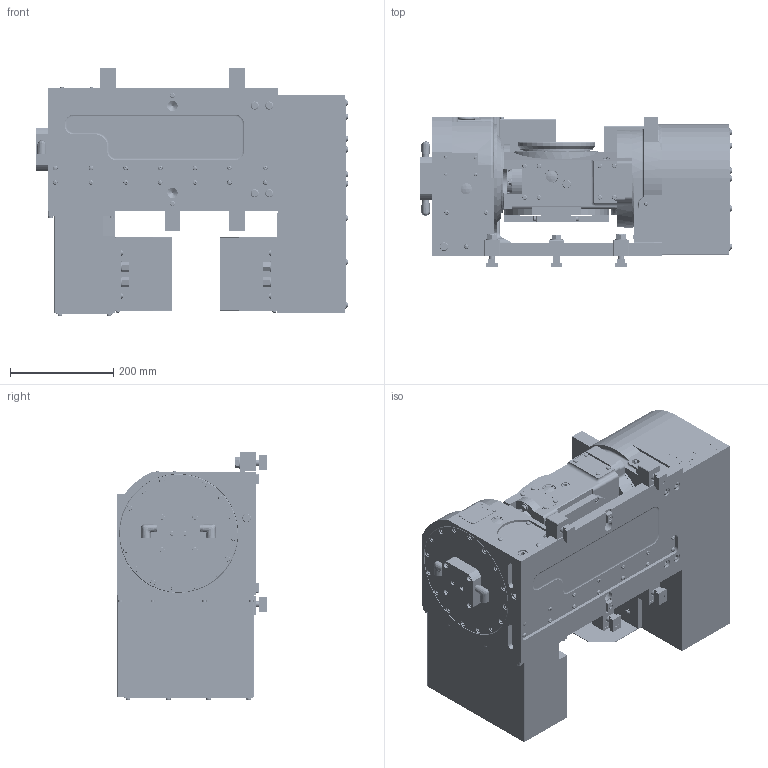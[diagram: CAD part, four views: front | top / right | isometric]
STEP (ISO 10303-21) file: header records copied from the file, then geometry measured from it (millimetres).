
FILE_DESCRIPTION (( 'STEP AP214' ), '1' );
FILE_NAME ('【掲載用】TT150付加軸RJ付.STEP', '2019-10-10T07:00:21', ( '' ), ( '' ), 'SwSTEP 2.0', 'SolidWorks 2017', '' );
FILE_SCHEMA (( 'AUTOMOTIVE_DESIGN' ));
Length unit declared in the file: millimetre
Products named in the file (19): Tスロットナット１４１２; Wヒラ　パーカ12; B 8.8 パーカ M12×55; クランプ(61E444174)TT150AE-04; TABLE_RJ(61E819648)TT150A01; BODY_RJ(61E114919)TT150A01; BASE_TT150AFR; キタガワシール; SMC KQ2E06-02; コネクタカバー(61E828569); コネクタカバー(61E828566); コネクタプレート(61E478412）; コネクタプレート(61E478411）; モータケース(61E2743650)TT150AFR61; モータケース(61E273001)TT150AF-01; BASE_RJ(61E114920)TT150A01_GB14; 【掲載用】TT150付加軸RJ付; CLAMPING PARTS(61E444176)TT181D3
Assembly tree (24 placements, depth 3):
  【掲載用】TT150付加軸RJ付
    BASE_TT150AFR
      BASE_RJ(61E114920)TT150A01_GB14
      モータケース(61E273001)TT150AF-01
      モータケース(61E2743650)TT150AFR61
      コネクタプレート(61E478411）
      コネクタプレート(61E478412）
      コネクタカバー(61E828566)
      コネクタカバー(61E828569)
      SMC KQ2E06-02  x4
      キタガワシール
    BODY_RJ(61E114919)TT150A01
      BODY_RJ(61E114919)TT150A01
    TABLE_RJ(61E819648)TT150A01
    CLAMPING PARTS(61E444176)TT181D3  x4
      クランプ(61E444174)TT150AE-04
      B 8.8 パーカ M12×55
      Wヒラ　パーカ12
      Tスロットナット１４１２
Bounding box: 605.8 x 292 x 480.8 mm (x, y, z)
Volume: 39181644.7 mm3; surface area: 2208867.5 mm2
Topology: 35 solids, 184 shells, 6719 faces, 15756 edges, 9969 vertices
Faces by surface type: plane 3943, cylinder 1835, cone 677, torus 176, sphere 62, bspline 26
Entity records: 192928 total; most frequent: CARTESIAN_POINT 36633, DIRECTION 32344, ORIENTED_EDGE 30154, EDGE_CURVE 15077, AXIS2_PLACEMENT_3D 11139, LINE 10066, VECTOR 10066, VERTEX_POINT 9627
